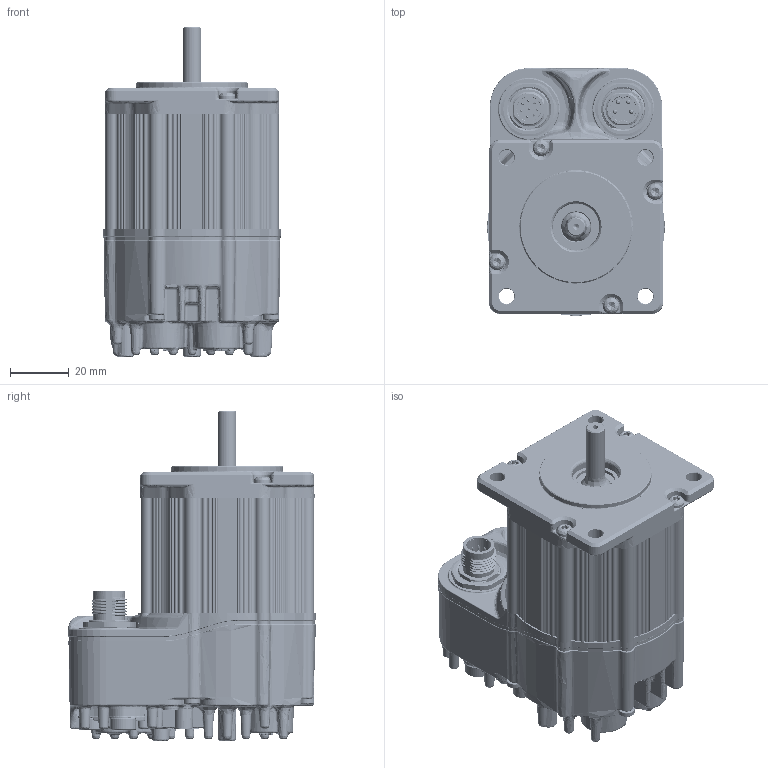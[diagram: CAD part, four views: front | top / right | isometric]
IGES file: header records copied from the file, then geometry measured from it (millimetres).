
Start section: SolidWorks IGES file using analytic representation for surfaces
Global section: file name: C:\TeknicPDM\EtherPath CPM-S\EtherPath CPM-S Customer Files\CPM-S Customer Models\CPMS 231xQ.igs; native system: SolidWorks 2020; preprocessor: SolidWorks 2020; author: mike_berezny; date: 241007.171543; units: inch
Bounding box: 60.26 x 84.12 x 111.8 mm (x, y, z)
Surface area: 110791.7 mm2 (no closed solid volume)
Topology: 0 solids, 0 shells, 11887 faces, 105245 edges, 104497 vertices
Faces by surface type: bspline 6216, revolution 5671
